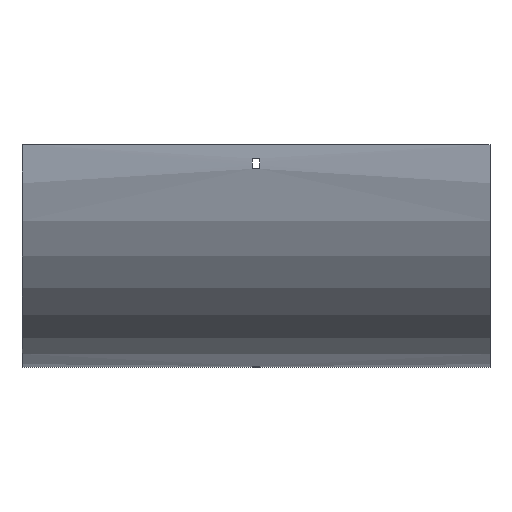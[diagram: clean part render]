
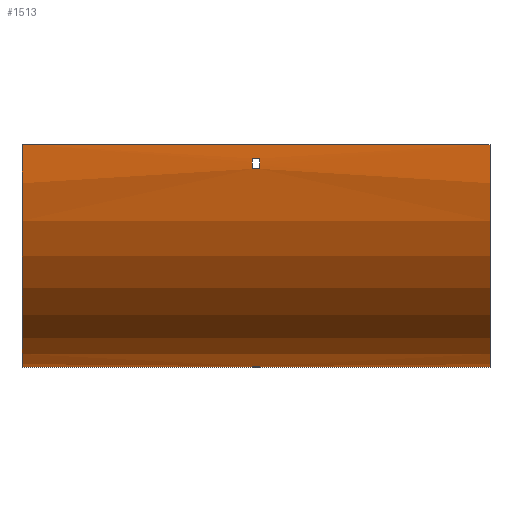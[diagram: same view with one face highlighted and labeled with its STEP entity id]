
A CAD part, front view. The second image highlights one B-rep face of the part: STEP entity #1513.
In plain terms, the highlighted cylindrical face has radius 192.5 mm (diameter 385 mm), a partial arc.
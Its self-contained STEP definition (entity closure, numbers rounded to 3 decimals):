
#26 = VECTOR ( 'NONE', #951, 1000. ) ;
#75 = CARTESIAN_POINT ( 'NONE',  ( -3.25, 100., 0. ) ) ;
#89 = VERTEX_POINT ( 'NONE', #1413 ) ;
#91 = ORIENTED_EDGE ( 'NONE', *, *, #199, .F. ) ;
#99 = DIRECTION ( 'NONE',  ( 1., 0., 0. ) ) ;
#105 = VECTOR ( 'NONE', #253, 1000. ) ;
#124 = CARTESIAN_POINT ( 'NONE',  ( 3.25, 100., 0. ) ) ;
#160 = LINE ( 'NONE', #942, #26 ) ;
#170 = EDGE_CURVE ( 'NONE', #524, #866, #1253, .T. ) ;
#199 = EDGE_CURVE ( 'NONE', #866, #89, #1637, .T. ) ;
#202 = EDGE_CURVE ( 'NONE', #1270, #890, #999, .T. ) ;
#253 = DIRECTION ( 'NONE',  ( -1., 0., 0. ) ) ;
#261 = ORIENTED_EDGE ( 'NONE', *, *, #1325, .T. ) ;
#294 = DIRECTION ( 'NONE',  ( 0., 0., 1. ) ) ;
#300 = CIRCLE ( 'NONE', #1444, 192.5 ) ;
#302 = VERTEX_POINT ( 'NONE', #1438 ) ;
#336 = DIRECTION ( 'NONE',  ( -1., 0., 0. ) ) ;
#344 = DIRECTION ( 'NONE',  ( 1., 0., 0. ) ) ;
#345 = CARTESIAN_POINT ( 'NONE',  ( 202., 88., -192.126 ) ) ;
#354 = ORIENTED_EDGE ( 'NONE', *, *, #202, .T. ) ;
#370 = EDGE_LOOP ( 'NONE', ( #91, #388, #1186, #924 ) ) ;
#388 = ORIENTED_EDGE ( 'NONE', *, *, #170, .F. ) ;
#389 = VERTEX_POINT ( 'NONE', #1418 ) ;
#394 = LINE ( 'NONE', #1145, #854 ) ;
#412 = AXIS2_PLACEMENT_3D ( 'NONE', #856, #344, #583 ) ;
#417 = VECTOR ( 'NONE', #1496, 1000. ) ;
#420 = EDGE_CURVE ( 'NONE', #1177, #954, #1274, .T. ) ;
#455 = FACE_BOUND ( 'NONE', #1464, .T. ) ;
#459 = CARTESIAN_POINT ( 'NONE',  ( 202., 79., -191.351 ) ) ;
#461 = FACE_OUTER_BOUND ( 'NONE', #751, .T. ) ;
#471 = CARTESIAN_POINT ( 'NONE',  ( 202., 100., 0. ) ) ;
#506 = CARTESIAN_POINT ( 'NONE',  ( 3.25, -91.351, -21. ) ) ;
#524 = VERTEX_POINT ( 'NONE', #1594 ) ;
#542 = CARTESIAN_POINT ( 'NONE',  ( 3.25, 100., 0. ) ) ;
#583 = DIRECTION ( 'NONE',  ( 0., 0., -1. ) ) ;
#603 = DIRECTION ( 'NONE',  ( 1., 0., 0. ) ) ;
#611 = DIRECTION ( 'NONE',  ( -1., 0., 0. ) ) ;
#637 = CARTESIAN_POINT ( 'NONE',  ( 202., -92.5, 0. ) ) ;
#689 = CARTESIAN_POINT ( 'NONE',  ( -3.25, -91.351, -21. ) ) ;
#714 = ORIENTED_EDGE ( 'NONE', *, *, #1153, .T. ) ;
#718 = DIRECTION ( 'NONE',  ( 1., 0., 0. ) ) ;
#751 = EDGE_LOOP ( 'NONE', ( #1566, #1226, #927, #354 ) ) ;
#760 = DIRECTION ( 'NONE',  ( -1., 0., 0. ) ) ;
#761 = DIRECTION ( 'NONE',  ( -1., 0., 0. ) ) ;
#807 = VERTEX_POINT ( 'NONE', #1441 ) ;
#843 = VERTEX_POINT ( 'NONE', #1282 ) ;
#854 = VECTOR ( 'NONE', #760, 1000. ) ;
#856 = CARTESIAN_POINT ( 'NONE',  ( -202., 100., 0. ) ) ;
#866 = VERTEX_POINT ( 'NONE', #1221 ) ;
#890 = VERTEX_POINT ( 'NONE', #1336 ) ;
#924 = ORIENTED_EDGE ( 'NONE', *, *, #1094, .F. ) ;
#927 = ORIENTED_EDGE ( 'NONE', *, *, #1538, .F. ) ;
#942 = CARTESIAN_POINT ( 'NONE',  ( 202., -92.126, -12. ) ) ;
#951 = DIRECTION ( 'NONE',  ( 1., 0., 0. ) ) ;
#954 = VERTEX_POINT ( 'NONE', #689 ) ;
#999 = LINE ( 'NONE', #1515, #1660 ) ;
#1010 = FACE_BOUND ( 'NONE', #370, .T. ) ;
#1079 = CIRCLE ( 'NONE', #1388, 192.5 ) ;
#1094 = EDGE_CURVE ( 'NONE', #89, #1095, #1647, .T. ) ;
#1095 = VERTEX_POINT ( 'NONE', #1146 ) ;
#1123 = DIRECTION ( 'NONE',  ( 0., 0., 1. ) ) ;
#1127 = DIRECTION ( 'NONE',  ( 0., 1., 0. ) ) ;
#1145 = CARTESIAN_POINT ( 'NONE',  ( 202., 100., -192.5 ) ) ;
#1146 = CARTESIAN_POINT ( 'NONE',  ( 3.25, 88., -192.126 ) ) ;
#1153 = EDGE_CURVE ( 'NONE', #389, #1177, #1079, .T. ) ;
#1154 = DIRECTION ( 'NONE',  ( 0., 0., -1. ) ) ;
#1177 = VERTEX_POINT ( 'NONE', #506 ) ;
#1182 = CIRCLE ( 'NONE', #1614, 192.5 ) ;
#1186 = ORIENTED_EDGE ( 'NONE', *, *, #1379, .F. ) ;
#1221 = CARTESIAN_POINT ( 'NONE',  ( -3.25, 79., -191.351 ) ) ;
#1226 = ORIENTED_EDGE ( 'NONE', *, *, #1645, .F. ) ;
#1235 = CIRCLE ( 'NONE', #412, 192.5 ) ;
#1253 = LINE ( 'NONE', #459, #1659 ) ;
#1270 = VERTEX_POINT ( 'NONE', #637 ) ;
#1274 = LINE ( 'NONE', #1655, #105 ) ;
#1280 = EDGE_CURVE ( 'NONE', #954, #807, #300, .T. ) ;
#1282 = CARTESIAN_POINT ( 'NONE',  ( 202., 100., -192.5 ) ) ;
#1288 = AXIS2_PLACEMENT_3D ( 'NONE', #1375, #718, #1632 ) ;
#1325 = EDGE_CURVE ( 'NONE', #807, #389, #160, .T. ) ;
#1336 = CARTESIAN_POINT ( 'NONE',  ( -202., -92.5, 0. ) ) ;
#1375 = CARTESIAN_POINT ( 'NONE',  ( 202., 100., 0. ) ) ;
#1379 = EDGE_CURVE ( 'NONE', #1095, #524, #1182, .T. ) ;
#1388 = AXIS2_PLACEMENT_3D ( 'NONE', #124, #99, #1154 ) ;
#1413 = CARTESIAN_POINT ( 'NONE',  ( -3.25, 88., -192.126 ) ) ;
#1418 = CARTESIAN_POINT ( 'NONE',  ( 3.25, -92.126, -12. ) ) ;
#1438 = CARTESIAN_POINT ( 'NONE',  ( -202., 100., -192.5 ) ) ;
#1441 = CARTESIAN_POINT ( 'NONE',  ( -3.25, -92.126, -12. ) ) ;
#1444 = AXIS2_PLACEMENT_3D ( 'NONE', #1532, #761, #1672 ) ;
#1464 = EDGE_LOOP ( 'NONE', ( #1633, #1618, #261, #714 ) ) ;
#1481 = AXIS2_PLACEMENT_3D ( 'NONE', #75, #603, #1127 ) ;
#1486 = DIRECTION ( 'NONE',  ( -1., 0., 0. ) ) ;
#1496 = DIRECTION ( 'NONE',  ( 1., 0., 0. ) ) ;
#1513 = ADVANCED_FACE ( 'NONE', ( #461, #455, #1010 ), #1516, .T. ) ;
#1515 = CARTESIAN_POINT ( 'NONE',  ( 202., -92.5, 0. ) ) ;
#1516 = CYLINDRICAL_SURFACE ( 'NONE', #1658, 192.5 ) ;
#1520 = DIRECTION ( 'NONE',  ( -1., 0., 0. ) ) ;
#1521 = EDGE_CURVE ( 'NONE', #890, #302, #1235, .T. ) ;
#1532 = CARTESIAN_POINT ( 'NONE',  ( -3.25, 100., 0. ) ) ;
#1538 = EDGE_CURVE ( 'NONE', #1270, #843, #1588, .T. ) ;
#1566 = ORIENTED_EDGE ( 'NONE', *, *, #1521, .T. ) ;
#1588 = CIRCLE ( 'NONE', #1288, 192.5 ) ;
#1594 = CARTESIAN_POINT ( 'NONE',  ( 3.25, 79., -191.351 ) ) ;
#1614 = AXIS2_PLACEMENT_3D ( 'NONE', #542, #1486, #294 ) ;
#1618 = ORIENTED_EDGE ( 'NONE', *, *, #1280, .T. ) ;
#1632 = DIRECTION ( 'NONE',  ( 0., 0., -1. ) ) ;
#1633 = ORIENTED_EDGE ( 'NONE', *, *, #420, .T. ) ;
#1637 = CIRCLE ( 'NONE', #1481, 192.5 ) ;
#1645 = EDGE_CURVE ( 'NONE', #843, #302, #394, .T. ) ;
#1647 = LINE ( 'NONE', #345, #417 ) ;
#1655 = CARTESIAN_POINT ( 'NONE',  ( 202., -91.351, -21. ) ) ;
#1658 = AXIS2_PLACEMENT_3D ( 'NONE', #471, #1520, #1123 ) ;
#1659 = VECTOR ( 'NONE', #611, 1000. ) ;
#1660 = VECTOR ( 'NONE', #336, 1000. ) ;
#1672 = DIRECTION ( 'NONE',  ( 0., 0., 1. ) ) ;
